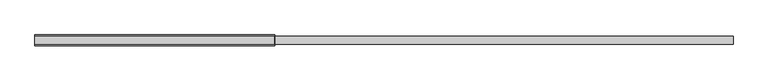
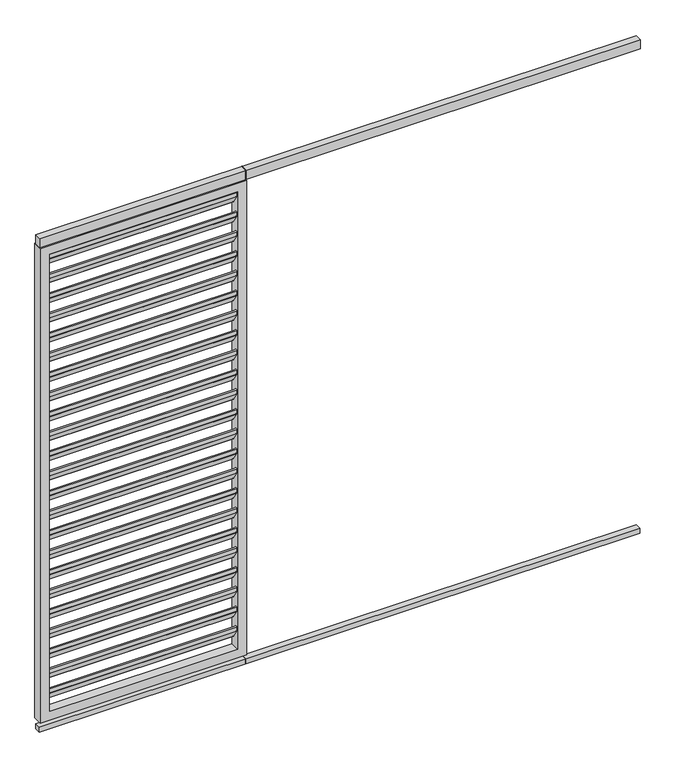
"""IFC4 building model written with IfcOpenShell, lengths in millimetres: proxy geometry, Renson_Camargue_Loggia_Paro_Aluminium : Renson_Camargue_Loggia_Paro_Aluminium."""

from ifc_helpers import new_model, si_unit, point, frame, frame_2d, origin, origin_with_axes, place, context, project, spatial, polyline, circle_curve, trimmed, segment, composite_curve, outline, extrude, source, transform, mapped, element, save


def generic_models_bb3b5c1f(model_context):
    return source(origin(), model_context, "Body", "SweptSolid", [
        extrude(outline(composite_curve([segment(polyline([(-10.1515804, 2164.292689), (14.3324079, 2126.5906532), (14.3324079, 2107.3412281)]), True, "CONTINUOUS"), segment(trimmed(circle_curve(frame_2d((11.3324079, 2107.3412281)), 3.0), [point((14.3324079, 2107.3412281))], [point((8.8163962, 2105.707311))], False, "CARTESIAN"), True, "CONTINUOUS"), segment(polyline([(8.8163962, 2105.707311), (-15.1836038, 2142.6640702)]), True, "CONTINUOUS"), segment(trimmed(circle_curve(frame_2d((-12.6675921, 2144.2979873)), 3.0), [point((-15.1836038, 2142.6640702))], [point((-15.6675921, 2144.2979873))], False, "CARTESIAN"), True, "CONTINUOUS"), segment(polyline([(-15.6675921, 2144.2979873), (-15.6675921, 2162.6587719)]), True, "CONTINUOUS"), segment(trimmed(circle_curve(frame_2d((-12.6675921, 2162.6587719)), 3.0), [point((-15.6675921, 2162.6587719))], [point((-10.1515804, 2164.292689))], False, "CARTESIAN"), True, "CONTINUOUS")], self_intersect=False)), frame((-405.0, 0.0, 0.0), z_axis=(1.0, 0.0, 0.0), x_axis=(0.0, 1.0, 0.0)), (0.0, 0.0, 1.0), 810.0),
        extrude(outline(composite_curve([segment(polyline([(-10.1515804, 2074.292689), (14.3324079, 2036.5906532), (14.3324079, 2017.3412281)]), True, "CONTINUOUS"), segment(trimmed(circle_curve(frame_2d((11.3324079, 2017.3412281)), 3.0), [point((14.3324079, 2017.3412281))], [point((8.8163962, 2015.707311))], False, "CARTESIAN"), True, "CONTINUOUS"), segment(polyline([(8.8163962, 2015.707311), (-15.1836038, 2052.6640702)]), True, "CONTINUOUS"), segment(trimmed(circle_curve(frame_2d((-12.6675921, 2054.2979873)), 3.0), [point((-15.1836038, 2052.6640702))], [point((-15.6675921, 2054.2979873))], False, "CARTESIAN"), True, "CONTINUOUS"), segment(polyline([(-15.6675921, 2054.2979873), (-15.6675921, 2072.6587719)]), True, "CONTINUOUS"), segment(trimmed(circle_curve(frame_2d((-12.6675921, 2072.6587719)), 3.0), [point((-15.6675921, 2072.6587719))], [point((-10.1515804, 2074.292689))], False, "CARTESIAN"), True, "CONTINUOUS")], self_intersect=False)), frame((-405.0, 0.0, 0.0), z_axis=(1.0, 0.0, 0.0), x_axis=(0.0, 1.0, 0.0)), (0.0, 0.0, 1.0), 810.0),
        extrude(outline(composite_curve([segment(polyline([(-10.1515804, 1984.292689), (14.3324079, 1946.5906532), (14.3324079, 1927.3412281)]), True, "CONTINUOUS"), segment(trimmed(circle_curve(frame_2d((11.3324079, 1927.3412281)), 3.0), [point((14.3324079, 1927.3412281))], [point((8.8163962, 1925.707311))], False, "CARTESIAN"), True, "CONTINUOUS"), segment(polyline([(8.8163962, 1925.707311), (-15.1836038, 1962.6640702)]), True, "CONTINUOUS"), segment(trimmed(circle_curve(frame_2d((-12.6675921, 1964.2979873)), 3.0), [point((-15.1836038, 1962.6640702))], [point((-15.6675921, 1964.2979873))], False, "CARTESIAN"), True, "CONTINUOUS"), segment(polyline([(-15.6675921, 1964.2979873), (-15.6675921, 1982.6587719)]), True, "CONTINUOUS"), segment(trimmed(circle_curve(frame_2d((-12.6675921, 1982.6587719)), 3.0), [point((-15.6675921, 1982.6587719))], [point((-10.1515804, 1984.292689))], False, "CARTESIAN"), True, "CONTINUOUS")], self_intersect=False)), frame((-405.0, 0.0, 0.0), z_axis=(1.0, 0.0, 0.0), x_axis=(0.0, 1.0, 0.0)), (0.0, 0.0, 1.0), 810.0),
        extrude(outline(composite_curve([segment(polyline([(-10.1515804, 1894.292689), (14.3324079, 1856.5906532), (14.3324079, 1837.3412281)]), True, "CONTINUOUS"), segment(trimmed(circle_curve(frame_2d((11.3324079, 1837.3412281)), 3.0), [point((14.3324079, 1837.3412281))], [point((8.8163962, 1835.707311))], False, "CARTESIAN"), True, "CONTINUOUS"), segment(polyline([(8.8163962, 1835.707311), (-15.1836038, 1872.6640702)]), True, "CONTINUOUS"), segment(trimmed(circle_curve(frame_2d((-12.6675921, 1874.2979873)), 3.0), [point((-15.1836038, 1872.6640702))], [point((-15.6675921, 1874.2979873))], False, "CARTESIAN"), True, "CONTINUOUS"), segment(polyline([(-15.6675921, 1874.2979873), (-15.6675921, 1892.6587719)]), True, "CONTINUOUS"), segment(trimmed(circle_curve(frame_2d((-12.6675921, 1892.6587719)), 3.0), [point((-15.6675921, 1892.6587719))], [point((-10.1515804, 1894.292689))], False, "CARTESIAN"), True, "CONTINUOUS")], self_intersect=False)), frame((-405.0, 0.0, 0.0), z_axis=(1.0, 0.0, 0.0), x_axis=(0.0, 1.0, 0.0)), (0.0, 0.0, 1.0), 810.0),
        extrude(outline(composite_curve([segment(polyline([(-10.1515804, 1804.292689), (14.3324079, 1766.5906532), (14.3324079, 1747.3412281)]), True, "CONTINUOUS"), segment(trimmed(circle_curve(frame_2d((11.3324079, 1747.3412281)), 3.0), [point((14.3324079, 1747.3412281))], [point((8.8163962, 1745.707311))], False, "CARTESIAN"), True, "CONTINUOUS"), segment(polyline([(8.8163962, 1745.707311), (-15.1836038, 1782.6640702)]), True, "CONTINUOUS"), segment(trimmed(circle_curve(frame_2d((-12.6675921, 1784.2979873)), 3.0), [point((-15.1836038, 1782.6640702))], [point((-15.6675921, 1784.2979873))], False, "CARTESIAN"), True, "CONTINUOUS"), segment(polyline([(-15.6675921, 1784.2979873), (-15.6675921, 1802.6587719)]), True, "CONTINUOUS"), segment(trimmed(circle_curve(frame_2d((-12.6675921, 1802.6587719)), 3.0), [point((-15.6675921, 1802.6587719))], [point((-10.1515804, 1804.292689))], False, "CARTESIAN"), True, "CONTINUOUS")], self_intersect=False)), frame((-405.0, 0.0, 0.0), z_axis=(1.0, 0.0, 0.0), x_axis=(0.0, 1.0, 0.0)), (0.0, 0.0, 1.0), 810.0),
        extrude(outline(composite_curve([segment(polyline([(-10.1515804, 1714.292689), (14.3324079, 1676.5906532), (14.3324079, 1657.3412281)]), True, "CONTINUOUS"), segment(trimmed(circle_curve(frame_2d((11.3324079, 1657.3412281)), 3.0), [point((14.3324079, 1657.3412281))], [point((8.8163962, 1655.707311))], False, "CARTESIAN"), True, "CONTINUOUS"), segment(polyline([(8.8163962, 1655.707311), (-15.1836038, 1692.6640702)]), True, "CONTINUOUS"), segment(trimmed(circle_curve(frame_2d((-12.6675921, 1694.2979873)), 3.0), [point((-15.1836038, 1692.6640702))], [point((-15.6675921, 1694.2979873))], False, "CARTESIAN"), True, "CONTINUOUS"), segment(polyline([(-15.6675921, 1694.2979873), (-15.6675921, 1712.6587719)]), True, "CONTINUOUS"), segment(trimmed(circle_curve(frame_2d((-12.6675921, 1712.6587719)), 3.0), [point((-15.6675921, 1712.6587719))], [point((-10.1515804, 1714.292689))], False, "CARTESIAN"), True, "CONTINUOUS")], self_intersect=False)), frame((-405.0, 0.0, 0.0), z_axis=(1.0, 0.0, 0.0), x_axis=(0.0, 1.0, 0.0)), (0.0, 0.0, 1.0), 810.0),
        extrude(outline(composite_curve([segment(polyline([(-10.1515804, 1624.292689), (14.3324079, 1586.5906532), (14.3324079, 1567.3412281)]), True, "CONTINUOUS"), segment(trimmed(circle_curve(frame_2d((11.3324079, 1567.3412281)), 3.0), [point((14.3324079, 1567.3412281))], [point((8.8163962, 1565.707311))], False, "CARTESIAN"), True, "CONTINUOUS"), segment(polyline([(8.8163962, 1565.707311), (-15.1836038, 1602.6640702)]), True, "CONTINUOUS"), segment(trimmed(circle_curve(frame_2d((-12.6675921, 1604.2979873)), 3.0), [point((-15.1836038, 1602.6640702))], [point((-15.6675921, 1604.2979873))], False, "CARTESIAN"), True, "CONTINUOUS"), segment(polyline([(-15.6675921, 1604.2979873), (-15.6675921, 1622.6587719)]), True, "CONTINUOUS"), segment(trimmed(circle_curve(frame_2d((-12.6675921, 1622.6587719)), 3.0), [point((-15.6675921, 1622.6587719))], [point((-10.1515804, 1624.292689))], False, "CARTESIAN"), True, "CONTINUOUS")], self_intersect=False)), frame((-405.0, 0.0, 0.0), z_axis=(1.0, 0.0, 0.0), x_axis=(0.0, 1.0, 0.0)), (0.0, 0.0, 1.0), 810.0),
        extrude(outline(composite_curve([segment(polyline([(-10.1515804, 1534.292689), (14.3324079, 1496.5906532), (14.3324079, 1477.3412281)]), True, "CONTINUOUS"), segment(trimmed(circle_curve(frame_2d((11.3324079, 1477.3412281)), 3.0), [point((14.3324079, 1477.3412281))], [point((8.8163962, 1475.707311))], False, "CARTESIAN"), True, "CONTINUOUS"), segment(polyline([(8.8163962, 1475.707311), (-15.1836038, 1512.6640702)]), True, "CONTINUOUS"), segment(trimmed(circle_curve(frame_2d((-12.6675921, 1514.2979873)), 3.0), [point((-15.1836038, 1512.6640702))], [point((-15.6675921, 1514.2979873))], False, "CARTESIAN"), True, "CONTINUOUS"), segment(polyline([(-15.6675921, 1514.2979873), (-15.6675921, 1532.6587719)]), True, "CONTINUOUS"), segment(trimmed(circle_curve(frame_2d((-12.6675921, 1532.6587719)), 3.0), [point((-15.6675921, 1532.6587719))], [point((-10.1515804, 1534.292689))], False, "CARTESIAN"), True, "CONTINUOUS")], self_intersect=False)), frame((-405.0, 0.0, 0.0), z_axis=(1.0, 0.0, 0.0), x_axis=(0.0, 1.0, 0.0)), (0.0, 0.0, 1.0), 810.0),
        extrude(outline(composite_curve([segment(polyline([(-10.1515804, 1444.292689), (14.3324079, 1406.5906532), (14.3324079, 1387.3412281)]), True, "CONTINUOUS"), segment(trimmed(circle_curve(frame_2d((11.3324079, 1387.3412281)), 3.0), [point((14.3324079, 1387.3412281))], [point((8.8163962, 1385.707311))], False, "CARTESIAN"), True, "CONTINUOUS"), segment(polyline([(8.8163962, 1385.707311), (-15.1836038, 1422.6640702)]), True, "CONTINUOUS"), segment(trimmed(circle_curve(frame_2d((-12.6675921, 1424.2979873)), 3.0), [point((-15.1836038, 1422.6640702))], [point((-15.6675921, 1424.2979873))], False, "CARTESIAN"), True, "CONTINUOUS"), segment(polyline([(-15.6675921, 1424.2979873), (-15.6675921, 1442.6587719)]), True, "CONTINUOUS"), segment(trimmed(circle_curve(frame_2d((-12.6675921, 1442.6587719)), 3.0), [point((-15.6675921, 1442.6587719))], [point((-10.1515804, 1444.292689))], False, "CARTESIAN"), True, "CONTINUOUS")], self_intersect=False)), frame((-405.0, 0.0, 0.0), z_axis=(1.0, 0.0, 0.0), x_axis=(0.0, 1.0, 0.0)), (0.0, 0.0, 1.0), 810.0),
        extrude(outline(composite_curve([segment(polyline([(-10.1515804, 1354.292689), (14.3324079, 1316.5906532), (14.3324079, 1297.3412281)]), True, "CONTINUOUS"), segment(trimmed(circle_curve(frame_2d((11.3324079, 1297.3412281)), 3.0), [point((14.3324079, 1297.3412281))], [point((8.8163962, 1295.707311))], False, "CARTESIAN"), True, "CONTINUOUS"), segment(polyline([(8.8163962, 1295.707311), (-15.1836038, 1332.6640702)]), True, "CONTINUOUS"), segment(trimmed(circle_curve(frame_2d((-12.6675921, 1334.2979873)), 3.0), [point((-15.1836038, 1332.6640702))], [point((-15.6675921, 1334.2979873))], False, "CARTESIAN"), True, "CONTINUOUS"), segment(polyline([(-15.6675921, 1334.2979873), (-15.6675921, 1352.6587719)]), True, "CONTINUOUS"), segment(trimmed(circle_curve(frame_2d((-12.6675921, 1352.6587719)), 3.0), [point((-15.6675921, 1352.6587719))], [point((-10.1515804, 1354.292689))], False, "CARTESIAN"), True, "CONTINUOUS")], self_intersect=False)), frame((-405.0, 0.0, 0.0), z_axis=(1.0, 0.0, 0.0), x_axis=(0.0, 1.0, 0.0)), (0.0, 0.0, 1.0), 810.0),
        extrude(outline(composite_curve([segment(polyline([(-10.1515804, 1264.292689), (14.3324079, 1226.5906532), (14.3324079, 1207.3412281)]), True, "CONTINUOUS"), segment(trimmed(circle_curve(frame_2d((11.3324079, 1207.3412281)), 3.0), [point((14.3324079, 1207.3412281))], [point((8.8163962, 1205.707311))], False, "CARTESIAN"), True, "CONTINUOUS"), segment(polyline([(8.8163962, 1205.707311), (-15.1836038, 1242.6640702)]), True, "CONTINUOUS"), segment(trimmed(circle_curve(frame_2d((-12.6675921, 1244.2979873)), 3.0), [point((-15.1836038, 1242.6640702))], [point((-15.6675921, 1244.2979873))], False, "CARTESIAN"), True, "CONTINUOUS"), segment(polyline([(-15.6675921, 1244.2979873), (-15.6675921, 1262.6587719)]), True, "CONTINUOUS"), segment(trimmed(circle_curve(frame_2d((-12.6675921, 1262.6587719)), 3.0), [point((-15.6675921, 1262.6587719))], [point((-10.1515804, 1264.292689))], False, "CARTESIAN"), True, "CONTINUOUS")], self_intersect=False)), frame((-405.0, 0.0, 0.0), z_axis=(1.0, 0.0, 0.0), x_axis=(0.0, 1.0, 0.0)), (0.0, 0.0, 1.0), 810.0),
        extrude(outline(composite_curve([segment(polyline([(-10.1515804, 1174.292689), (14.3324079, 1136.5906532), (14.3324079, 1117.3412281)]), True, "CONTINUOUS"), segment(trimmed(circle_curve(frame_2d((11.3324079, 1117.3412281)), 3.0), [point((14.3324079, 1117.3412281))], [point((8.8163962, 1115.707311))], False, "CARTESIAN"), True, "CONTINUOUS"), segment(polyline([(8.8163962, 1115.707311), (-15.1836038, 1152.6640702)]), True, "CONTINUOUS"), segment(trimmed(circle_curve(frame_2d((-12.6675921, 1154.2979873)), 3.0), [point((-15.1836038, 1152.6640702))], [point((-15.6675921, 1154.2979873))], False, "CARTESIAN"), True, "CONTINUOUS"), segment(polyline([(-15.6675921, 1154.2979873), (-15.6675921, 1172.6587719)]), True, "CONTINUOUS"), segment(trimmed(circle_curve(frame_2d((-12.6675921, 1172.6587719)), 3.0), [point((-15.6675921, 1172.6587719))], [point((-10.1515804, 1174.292689))], False, "CARTESIAN"), True, "CONTINUOUS")], self_intersect=False)), frame((-405.0, 0.0, 0.0), z_axis=(1.0, 0.0, 0.0), x_axis=(0.0, 1.0, 0.0)), (0.0, 0.0, 1.0), 810.0),
        extrude(outline(composite_curve([segment(polyline([(-10.1515804, 1084.292689), (14.3324079, 1046.5906532), (14.3324079, 1027.3412281)]), True, "CONTINUOUS"), segment(trimmed(circle_curve(frame_2d((11.3324079, 1027.3412281)), 3.0), [point((14.3324079, 1027.3412281))], [point((8.8163962, 1025.707311))], False, "CARTESIAN"), True, "CONTINUOUS"), segment(polyline([(8.8163962, 1025.707311), (-15.1836038, 1062.6640702)]), True, "CONTINUOUS"), segment(trimmed(circle_curve(frame_2d((-12.6675921, 1064.2979873)), 3.0), [point((-15.1836038, 1062.6640702))], [point((-15.6675921, 1064.2979873))], False, "CARTESIAN"), True, "CONTINUOUS"), segment(polyline([(-15.6675921, 1064.2979873), (-15.6675921, 1082.6587719)]), True, "CONTINUOUS"), segment(trimmed(circle_curve(frame_2d((-12.6675921, 1082.6587719)), 3.0), [point((-15.6675921, 1082.6587719))], [point((-10.1515804, 1084.292689))], False, "CARTESIAN"), True, "CONTINUOUS")], self_intersect=False)), frame((-405.0, 0.0, 0.0), z_axis=(1.0, 0.0, 0.0), x_axis=(0.0, 1.0, 0.0)), (0.0, 0.0, 1.0), 810.0),
        extrude(outline(composite_curve([segment(polyline([(-10.1515804, 994.292689), (14.3324079, 956.5906532), (14.3324079, 937.3412281)]), True, "CONTINUOUS"), segment(trimmed(circle_curve(frame_2d((11.3324079, 937.3412281)), 3.0), [point((14.3324079, 937.3412281))], [point((8.8163962, 935.707311))], False, "CARTESIAN"), True, "CONTINUOUS"), segment(polyline([(8.8163962, 935.707311), (-15.1836038, 972.6640702)]), True, "CONTINUOUS"), segment(trimmed(circle_curve(frame_2d((-12.6675921, 974.2979873)), 3.0), [point((-15.1836038, 972.6640702))], [point((-15.6675921, 974.2979873))], False, "CARTESIAN"), True, "CONTINUOUS"), segment(polyline([(-15.6675921, 974.2979873), (-15.6675921, 992.6587719)]), True, "CONTINUOUS"), segment(trimmed(circle_curve(frame_2d((-12.6675921, 992.6587719)), 3.0), [point((-15.6675921, 992.6587719))], [point((-10.1515804, 994.292689))], False, "CARTESIAN"), True, "CONTINUOUS")], self_intersect=False)), frame((-405.0, 0.0, 0.0), z_axis=(1.0, 0.0, 0.0), x_axis=(0.0, 1.0, 0.0)), (0.0, 0.0, 1.0), 810.0),
        extrude(outline(composite_curve([segment(polyline([(-10.1515804, 904.292689), (14.3324079, 866.5906532), (14.3324079, 847.3412281)]), True, "CONTINUOUS"), segment(trimmed(circle_curve(frame_2d((11.3324079, 847.3412281)), 3.0), [point((14.3324079, 847.3412281))], [point((8.8163962, 845.707311))], False, "CARTESIAN"), True, "CONTINUOUS"), segment(polyline([(8.8163962, 845.707311), (-15.1836038, 882.6640702)]), True, "CONTINUOUS"), segment(trimmed(circle_curve(frame_2d((-12.6675921, 884.2979873)), 3.0), [point((-15.1836038, 882.6640702))], [point((-15.6675921, 884.2979873))], False, "CARTESIAN"), True, "CONTINUOUS"), segment(polyline([(-15.6675921, 884.2979873), (-15.6675921, 902.6587719)]), True, "CONTINUOUS"), segment(trimmed(circle_curve(frame_2d((-12.6675921, 902.6587719)), 3.0), [point((-15.6675921, 902.6587719))], [point((-10.1515804, 904.292689))], False, "CARTESIAN"), True, "CONTINUOUS")], self_intersect=False)), frame((-405.0, 0.0, 0.0), z_axis=(1.0, 0.0, 0.0), x_axis=(0.0, 1.0, 0.0)), (0.0, 0.0, 1.0), 810.0),
        extrude(outline(composite_curve([segment(polyline([(-10.1515804, 814.292689), (14.3324079, 776.5906532), (14.3324079, 757.3412281)]), True, "CONTINUOUS"), segment(trimmed(circle_curve(frame_2d((11.3324079, 757.3412281)), 3.0), [point((14.3324079, 757.3412281))], [point((8.8163962, 755.707311))], False, "CARTESIAN"), True, "CONTINUOUS"), segment(polyline([(8.8163962, 755.707311), (-15.1836038, 792.6640702)]), True, "CONTINUOUS"), segment(trimmed(circle_curve(frame_2d((-12.6675921, 794.2979873)), 3.0), [point((-15.1836038, 792.6640702))], [point((-15.6675921, 794.2979873))], False, "CARTESIAN"), True, "CONTINUOUS"), segment(polyline([(-15.6675921, 794.2979873), (-15.6675921, 812.6587719)]), True, "CONTINUOUS"), segment(trimmed(circle_curve(frame_2d((-12.6675921, 812.6587719)), 3.0), [point((-15.6675921, 812.6587719))], [point((-10.1515804, 814.292689))], False, "CARTESIAN"), True, "CONTINUOUS")], self_intersect=False)), frame((-405.0, 0.0, 0.0), z_axis=(1.0, 0.0, 0.0), x_axis=(0.0, 1.0, 0.0)), (0.0, 0.0, 1.0), 810.0),
        extrude(outline(composite_curve([segment(polyline([(-10.1515804, 724.292689), (14.3324079, 686.5906532), (14.3324079, 667.3412281)]), True, "CONTINUOUS"), segment(trimmed(circle_curve(frame_2d((11.3324079, 667.3412281)), 3.0), [point((14.3324079, 667.3412281))], [point((8.8163962, 665.707311))], False, "CARTESIAN"), True, "CONTINUOUS"), segment(polyline([(8.8163962, 665.707311), (-15.1836038, 702.6640702)]), True, "CONTINUOUS"), segment(trimmed(circle_curve(frame_2d((-12.6675921, 704.2979873)), 3.0), [point((-15.1836038, 702.6640702))], [point((-15.6675921, 704.2979873))], False, "CARTESIAN"), True, "CONTINUOUS"), segment(polyline([(-15.6675921, 704.2979873), (-15.6675921, 722.6587719)]), True, "CONTINUOUS"), segment(trimmed(circle_curve(frame_2d((-12.6675921, 722.6587719)), 3.0), [point((-15.6675921, 722.6587719))], [point((-10.1515804, 724.292689))], False, "CARTESIAN"), True, "CONTINUOUS")], self_intersect=False)), frame((-405.0, 0.0, 0.0), z_axis=(1.0, 0.0, 0.0), x_axis=(0.0, 1.0, 0.0)), (0.0, 0.0, 1.0), 810.0),
        extrude(outline(composite_curve([segment(polyline([(-10.1515804, 634.292689), (14.3324079, 596.5906532), (14.3324079, 577.3412281)]), True, "CONTINUOUS"), segment(trimmed(circle_curve(frame_2d((11.3324079, 577.3412281)), 3.0), [point((14.3324079, 577.3412281))], [point((8.8163962, 575.707311))], False, "CARTESIAN"), True, "CONTINUOUS"), segment(polyline([(8.8163962, 575.707311), (-15.1836038, 612.6640702)]), True, "CONTINUOUS"), segment(trimmed(circle_curve(frame_2d((-12.6675921, 614.2979873)), 3.0), [point((-15.1836038, 612.6640702))], [point((-15.6675921, 614.2979873))], False, "CARTESIAN"), True, "CONTINUOUS"), segment(polyline([(-15.6675921, 614.2979873), (-15.6675921, 632.6587719)]), True, "CONTINUOUS"), segment(trimmed(circle_curve(frame_2d((-12.6675921, 632.6587719)), 3.0), [point((-15.6675921, 632.6587719))], [point((-10.1515804, 634.292689))], False, "CARTESIAN"), True, "CONTINUOUS")], self_intersect=False)), frame((-405.0, 0.0, 0.0), z_axis=(1.0, 0.0, 0.0), x_axis=(0.0, 1.0, 0.0)), (0.0, 0.0, 1.0), 810.0),
        extrude(outline(composite_curve([segment(polyline([(-10.1515804, 544.292689), (14.3324079, 506.5906532), (14.3324079, 487.3412281)]), True, "CONTINUOUS"), segment(trimmed(circle_curve(frame_2d((11.3324079, 487.3412281)), 3.0), [point((14.3324079, 487.3412281))], [point((8.8163962, 485.707311))], False, "CARTESIAN"), True, "CONTINUOUS"), segment(polyline([(8.8163962, 485.707311), (-15.1836038, 522.6640702)]), True, "CONTINUOUS"), segment(trimmed(circle_curve(frame_2d((-12.6675921, 524.2979873)), 3.0), [point((-15.1836038, 522.6640702))], [point((-15.6675921, 524.2979873))], False, "CARTESIAN"), True, "CONTINUOUS"), segment(polyline([(-15.6675921, 524.2979873), (-15.6675921, 542.6587719)]), True, "CONTINUOUS"), segment(trimmed(circle_curve(frame_2d((-12.6675921, 542.6587719)), 3.0), [point((-15.6675921, 542.6587719))], [point((-10.1515804, 544.292689))], False, "CARTESIAN"), True, "CONTINUOUS")], self_intersect=False)), frame((-405.0, 0.0, 0.0), z_axis=(1.0, 0.0, 0.0), x_axis=(0.0, 1.0, 0.0)), (0.0, 0.0, 1.0), 810.0),
        extrude(outline(composite_curve([segment(polyline([(-10.1515804, 454.292689), (14.3324079, 416.5906532), (14.3324079, 397.3412281)]), True, "CONTINUOUS"), segment(trimmed(circle_curve(frame_2d((11.3324079, 397.3412281)), 3.0), [point((14.3324079, 397.3412281))], [point((8.8163962, 395.707311))], False, "CARTESIAN"), True, "CONTINUOUS"), segment(polyline([(8.8163962, 395.707311), (-15.1836038, 432.6640702)]), True, "CONTINUOUS"), segment(trimmed(circle_curve(frame_2d((-12.6675921, 434.2979873)), 3.0), [point((-15.1836038, 432.6640702))], [point((-15.6675921, 434.2979873))], False, "CARTESIAN"), True, "CONTINUOUS"), segment(polyline([(-15.6675921, 434.2979873), (-15.6675921, 452.6587719)]), True, "CONTINUOUS"), segment(trimmed(circle_curve(frame_2d((-12.6675921, 452.6587719)), 3.0), [point((-15.6675921, 452.6587719))], [point((-10.1515804, 454.292689))], False, "CARTESIAN"), True, "CONTINUOUS")], self_intersect=False)), frame((-405.0, 0.0, 0.0), z_axis=(1.0, 0.0, 0.0), x_axis=(0.0, 1.0, 0.0)), (0.0, 0.0, 1.0), 810.0),
        extrude(outline(composite_curve([segment(polyline([(-10.1515804, 364.292689), (14.3324079, 326.5906532), (14.3324079, 307.3412281)]), True, "CONTINUOUS"), segment(trimmed(circle_curve(frame_2d((11.3324079, 307.3412281)), 3.0), [point((14.3324079, 307.3412281))], [point((8.8163962, 305.707311))], False, "CARTESIAN"), True, "CONTINUOUS"), segment(polyline([(8.8163962, 305.707311), (-15.1836038, 342.6640702)]), True, "CONTINUOUS"), segment(trimmed(circle_curve(frame_2d((-12.6675921, 344.2979873)), 3.0), [point((-15.1836038, 342.6640702))], [point((-15.6675921, 344.2979873))], False, "CARTESIAN"), True, "CONTINUOUS"), segment(polyline([(-15.6675921, 344.2979873), (-15.6675921, 362.6587719)]), True, "CONTINUOUS"), segment(trimmed(circle_curve(frame_2d((-12.6675921, 362.6587719)), 3.0), [point((-15.6675921, 362.6587719))], [point((-10.1515804, 364.292689))], False, "CARTESIAN"), True, "CONTINUOUS")], self_intersect=False)), frame((-405.0, 0.0, 0.0), z_axis=(1.0, 0.0, 0.0), x_axis=(0.0, 1.0, 0.0)), (0.0, 0.0, 1.0), 810.0),
        extrude(outline(composite_curve([segment(polyline([(-10.1515804, 274.292689), (14.3324079, 236.5906532), (14.3324079, 217.3412281)]), True, "CONTINUOUS"), segment(trimmed(circle_curve(frame_2d((11.3324079, 217.3412281)), 3.0), [point((14.3324079, 217.3412281))], [point((8.8163962, 215.707311))], False, "CARTESIAN"), True, "CONTINUOUS"), segment(polyline([(8.8163962, 215.707311), (-15.1836038, 252.6640702)]), True, "CONTINUOUS"), segment(trimmed(circle_curve(frame_2d((-12.6675921, 254.2979873)), 3.0), [point((-15.1836038, 252.6640702))], [point((-15.6675921, 254.2979873))], False, "CARTESIAN"), True, "CONTINUOUS"), segment(polyline([(-15.6675921, 254.2979873), (-15.6675921, 272.6587719)]), True, "CONTINUOUS"), segment(trimmed(circle_curve(frame_2d((-12.6675921, 272.6587719)), 3.0), [point((-15.6675921, 272.6587719))], [point((-10.1515804, 274.292689))], False, "CARTESIAN"), True, "CONTINUOUS")], self_intersect=False)), frame((-405.0, 0.0, 0.0), z_axis=(1.0, 0.0, 0.0), x_axis=(0.0, 1.0, 0.0)), (0.0, 0.0, 1.0), 810.0),
        extrude(outline(composite_curve([segment(polyline([(-10.1515804, 184.292689), (14.3324079, 146.5906532), (14.3324079, 127.3412281)]), True, "CONTINUOUS"), segment(trimmed(circle_curve(frame_2d((11.3324079, 127.3412281)), 3.0), [point((14.3324079, 127.3412281))], [point((8.8163962, 125.707311))], False, "CARTESIAN"), True, "CONTINUOUS"), segment(polyline([(8.8163962, 125.707311), (-15.1836038, 162.6640702)]), True, "CONTINUOUS"), segment(trimmed(circle_curve(frame_2d((-12.6675921, 164.2979873)), 3.0), [point((-15.1836038, 162.6640702))], [point((-15.6675921, 164.2979873))], False, "CARTESIAN"), True, "CONTINUOUS"), segment(polyline([(-15.6675921, 164.2979873), (-15.6675921, 182.6587719)]), True, "CONTINUOUS"), segment(trimmed(circle_curve(frame_2d((-12.6675921, 182.6587719)), 3.0), [point((-15.6675921, 182.6587719))], [point((-10.1515804, 184.292689))], False, "CARTESIAN"), True, "CONTINUOUS")], self_intersect=False)), frame((-405.0, 0.0, 0.0), z_axis=(1.0, 0.0, 0.0), x_axis=(0.0, 1.0, 0.0)), (0.0, 0.0, 1.0), 810.0),
        extrude(outline(polyline([(445.0, -15.0), (444.0, -15.0), (444.0, 15.0), (445.0, 15.0), (445.0, -15.0)])), frame((0.0, 0.0, 2207.7138321), z_axis=(0.0, 0.0, 1.0), x_axis=(1.0, 0.0, 0.0)), (0.0, 0.0, 1.0), 42.2861679),
        extrude(outline(polyline([(2145.0, -15.0), (-445.0, -15.0), (-445.0, 15.0), (2145.0, 15.0), (2145.0, -15.0)])), frame((0.0, 0.0, 2207.7138321), z_axis=(0.0, 0.0, 1.0), x_axis=(1.0, 0.0, 0.0)), (0.0, 0.0, 1.0), 42.2861679),
        extrude(outline(polyline([(445.0, 13.0), (445.0, -14.0), (444.0, -14.0), (444.0, 13.0), (445.0, 13.0)])), origin_with_axes(), (0.0, 0.0, 1.0), 23.0),
        extrude(outline(polyline([(2145.0, 13.0), (2145.0, -14.0), (-445.0, -14.0), (-445.0, 13.0), (2145.0, 13.0)])), origin_with_axes(), (0.0, 0.0, 1.0), 23.0),
        extrude(outline(polyline([(2207.7138321, 445.0), (2207.7138321, -445.0), (45.0, -445.0), (45.0, 445.0), (2207.7138321, 445.0)]), holes=[polyline([(2167.7138321, -405.0), (2167.7138321, 405.0), (85.0, 405.0), (85.0, -405.0), (2167.7138321, -405.0)])]), frame((0.0, -20.0, 0.0), z_axis=(0.0, 1.0, 0.0), x_axis=(0.0, 0.0, 1.0)), (0.0, 0.0, 1.0), 40.0),
    ])


if __name__ == "__main__":
    model = new_model("IFC4")
    model_context = context("Model", 3, world=origin())
    ifc_project = project(units=[si_unit("LENGTHUNIT", "METRE", prefix="MILLI")], contexts=[model_context])
    site = spatial("IfcSite", under=ifc_project)
    building = spatial("IfcBuilding", under=site)
    placement = place(None, origin())
    generic_models_shape = generic_models_bb3b5c1f(model_context)
    element("IfcBuildingElementProxy", 1, Name="Renson_Camargue_Loggia_Paro_Aluminium : Renson_Camargue_Loggia_Paro_Aluminium", ObjectType="Renson_Camargue_Loggia_Paro_Aluminium : Renson_Camargue_Loggia_Paro_Aluminium", at=placement, inside=building, context=model_context, shape_type="MappedRepresentation", body=[
        mapped(generic_models_shape, transform((0.0, 0.0, 0.0), x_axis=(1.0, 0.0, 0.0), y_axis=(0.0, 1.0, 0.0), z_axis=(0.0, 0.0, 1.0))),
    ])
    save(model, "model.ifc")
